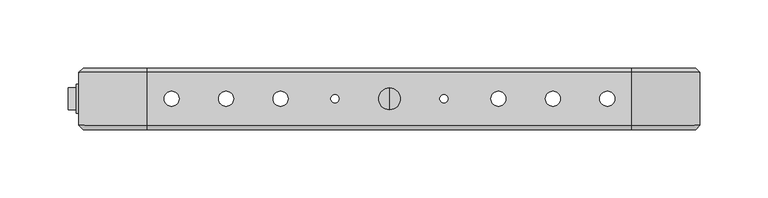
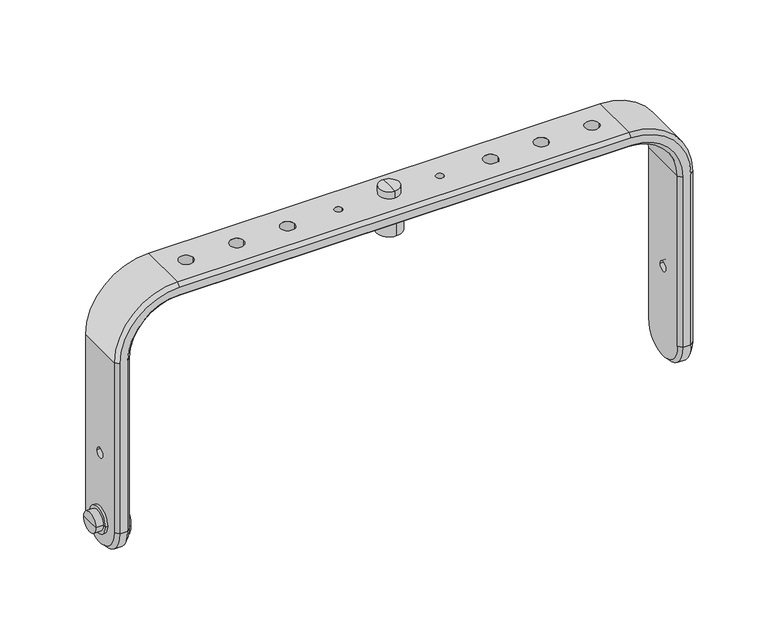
"""IFC4 building model written with IfcOpenShell, lengths in millimetres: proxy geometry, ePS8-WM280-HBRK425-WHM : ePS8-WM280-HBRK425-WHM."""

from ifc_helpers import new_model, si_unit, point, frame, origin, place, context, project, spatial, polyline, circle_curve, ellipse_curve, trimmed, source, transform, mapped, element, save
from ifc_brep_helpers import plane_surface, cylinder_surface, revolved_surface, advanced_brep


def generic_models_8d1e662f(model_context):
    return source(origin(), model_context, "Body", "AdvancedBrep", [
        advanced_brep(
        [(-216.0, -260.557585, -192.0012591), (-216.0, -297.442415, -192.0012591), (-216.0, -283.0553577, -192.0012591), (-216.0, -274.9446423, -192.0012591), (-213.0, -263.557585, -192.0012591), (-213.0, -294.442415, -192.0012591), (-213.0, -274.9446423, -192.0012591), (-213.0, -283.0553577, -192.0012591), (-212.0, -274.9446423, -192.0012591), (-212.0, -283.0553577, -192.0012591), (-212.0, -279.0, -192.0012591), (-236.0, -270.9249697, -192.0012591), (-236.0, -287.0750303, -192.0012591), (-236.0, -279.0, -192.0012591), (-230.0, -270.9249697, -192.0012591), (-230.0, -287.0750303, -192.0012591), (-230.0, -268.444078, -192.0012591), (-230.0, -289.555922, -192.0012591), (-228.0, -268.444078, -192.0012591), (-228.0, -289.555922, -192.0012591), (-228.0, -274.9446423, -192.0012591), (-228.0, -283.0553577, -192.0012591)],
        [
            (0, 1, circle_curve(frame((-216.0, -279.0, -192.0012591), z_axis=(-1.0, 0.0, 0.0), x_axis=(0.0, -1.0, 0.0)), 18.442415)),
            (1, 2),
            (2, 3, circle_curve(frame((-216.0, -279.0, -192.0012591), z_axis=(1.0, 0.0, 0.0), x_axis=(0.0, -1.0, 0.0)), 4.0553577)),
            (3, 0),
            (1, 0, circle_curve(frame((-216.0, -279.0, -192.0012591), z_axis=(-1.0, 0.0, 0.0), x_axis=(0.0, -1.0, 0.0)), 18.442415)),
            (3, 2, circle_curve(frame((-216.0, -279.0, -192.0012591), z_axis=(1.0, 0.0, 0.0), x_axis=(0.0, -1.0, 0.0)), 4.0553577)),
            (4, 5, circle_curve(frame((-213.0, -279.0, -192.0012591), z_axis=(-1.0, 0.0, 0.0), x_axis=(0.0, -1.0, 0.0)), 15.442415)),
            (5, 1, circle_curve(frame((-216.0, -294.442415, -192.0012591), z_axis=(0.0, 0.0, -1.0), x_axis=(1.0, 0.0, 0.0)), 3.0)),
            (0, 4, circle_curve(frame((-216.0, -263.557585, -192.0012591), z_axis=(0.0, 0.0, -1.0), x_axis=(1.0, 0.0, 0.0)), 3.0)),
            (5, 4, circle_curve(frame((-213.0, -279.0, -192.0012591), z_axis=(-1.0, 0.0, 0.0), x_axis=(0.0, -1.0, 0.0)), 15.442415)),
            (6, 7, circle_curve(frame((-213.0, -279.0, -192.0012591), z_axis=(-1.0, 0.0, 0.0), x_axis=(0.0, -1.0, 0.0)), 4.0553577)),
            (7, 5),
            (4, 6),
            (7, 6, circle_curve(frame((-213.0, -279.0, -192.0012591), z_axis=(-1.0, 0.0, 0.0), x_axis=(0.0, -1.0, 0.0)), 4.0553577)),
            (8, 9, circle_curve(frame((-212.0, -279.0, -192.0012591), z_axis=(-1.0, 0.0, 0.0), x_axis=(0.0, -1.0, 0.0)), 4.0553577)),
            (9, 7),
            (6, 8),
            (9, 8, circle_curve(frame((-212.0, -279.0, -192.0012591), z_axis=(-1.0, 0.0, 0.0), x_axis=(0.0, -1.0, 0.0)), 4.0553577)),
            (10, 9),
            (8, 10),
            (11, 12, circle_curve(frame((-236.0, -279.0, -192.0012591), z_axis=(-1.0, 0.0, 0.0), x_axis=(0.0, -1.0, 0.0)), 8.0750303)),
            (12, 13),
            (13, 11),
            (12, 11, circle_curve(frame((-236.0, -279.0, -192.0012591), z_axis=(-1.0, 0.0, 0.0), x_axis=(0.0, -1.0, 0.0)), 8.0750303)),
            (14, 15, circle_curve(frame((-230.0, -279.0, -192.0012591), z_axis=(-1.0, 0.0, 0.0), x_axis=(0.0, -1.0, 0.0)), 8.0750303)),
            (15, 12),
            (11, 14),
            (15, 14, circle_curve(frame((-230.0, -279.0, -192.0012591), z_axis=(-1.0, 0.0, 0.0), x_axis=(0.0, -1.0, 0.0)), 8.0750303)),
            (16, 17, circle_curve(frame((-230.0, -279.0, -192.0012591), z_axis=(-1.0, 0.0, 0.0), x_axis=(0.0, -1.0, 0.0)), 10.555922)),
            (17, 15),
            (14, 16),
            (17, 16, circle_curve(frame((-230.0, -279.0, -192.0012591), z_axis=(-1.0, 0.0, 0.0), x_axis=(0.0, -1.0, 0.0)), 10.555922)),
            (18, 19, circle_curve(frame((-228.0, -279.0, -192.0012591), z_axis=(-1.0, 0.0, 0.0), x_axis=(0.0, -1.0, 0.0)), 10.555922)),
            (19, 17),
            (16, 18),
            (19, 18, circle_curve(frame((-228.0, -279.0, -192.0012591), z_axis=(-1.0, 0.0, 0.0), x_axis=(0.0, -1.0, 0.0)), 10.555922)),
            (20, 21, circle_curve(frame((-228.0, -279.0, -192.0012591), z_axis=(-1.0, 0.0, 0.0), x_axis=(0.0, -1.0, 0.0)), 4.0553577)),
            (21, 19),
            (18, 20),
            (21, 20, circle_curve(frame((-228.0, -279.0, -192.0012591), z_axis=(-1.0, 0.0, 0.0), x_axis=(0.0, -1.0, 0.0)), 4.0553577)),
            (2, 21),
            (20, 3),
        ],
        [
            plane_surface(frame((-216.0, -279.0, -192.0012591), z_axis=(-1.0, 0.0, 0.0), x_axis=(0.0, -1.0, 0.0))),
            revolved_surface(trimmed(ellipse_curve(frame((-216.0, -294.442415, -192.0012591), z_axis=(0.0, 0.0, 1.0), x_axis=(1.0, 0.0, 0.0)), 3.0, 3.0), [point((-216.0, -297.442415, -192.0012591))], [point((-213.0, -294.442415, -192.0012591))], True, "CARTESIAN"), (-203.2578639, -279.0, -192.0012591), (1.0, 0.0, 0.0)),
            plane_surface(frame((-213.0, -279.0, -192.0012591), z_axis=(1.0, 0.0, 0.0), x_axis=(0.0, -1.0, 0.0))),
            cylinder_surface(frame((-203.2578639, -279.0, -192.0012591), z_axis=(1.0, 0.0, 0.0), x_axis=(0.0, -1.0, 0.0)), 4.0553577),
            plane_surface(frame((-212.0, -279.0, -192.0012591), z_axis=(1.0, 0.0, 0.0), x_axis=(0.0, -1.0, 0.0))),
            plane_surface(frame((-236.0, -279.0, -192.0012591), z_axis=(-1.0, 0.0, 0.0), x_axis=(0.0, -1.0, 0.0))),
            cylinder_surface(frame((-203.2578639, -279.0, -192.0012591), z_axis=(1.0, 0.0, 0.0), x_axis=(0.0, -1.0, 0.0)), 8.0750303),
            plane_surface(frame((-230.0, -279.0, -192.0012591), z_axis=(-1.0, 0.0, 0.0), x_axis=(0.0, -1.0, 0.0))),
            cylinder_surface(frame((-203.2578639, -279.0, -192.0012591), z_axis=(1.0, 0.0, 0.0), x_axis=(0.0, -1.0, 0.0)), 10.555922),
            plane_surface(frame((-228.0, -279.0, -192.0012591), z_axis=(1.0, 0.0, 0.0), x_axis=(0.0, -1.0, 0.0))),
        ],
        [
            (0, [[1, 2, 3, 4]]),
            (0, [[5, -4, 6, -2]]),
            (1, [[7, 8, -1, 9]]),
            (1, [[10, -9, -5, -8]]),
            (2, [[11, 12, -7, 13]]),
            (2, [[14, -13, -10, -12]]),
            (3, [[15, 16, -11, 17]]),
            (3, [[18, -17, -14, -16]]),
            (4, [[19, -15, 20]]),
            (4, [[-20, -18, -19]]),
            (5, [[21, 22, 23]]),
            (5, [[24, -23, -22]]),
            (6, [[25, 26, -21, 27]]),
            (6, [[28, -27, -24, -26]]),
            (7, [[29, 30, -25, 31]]),
            (7, [[32, -31, -28, -30]]),
            (8, [[33, 34, -29, 35]]),
            (8, [[36, -35, -32, -34]]),
            (9, [[37, 38, -33, 39]]),
            (9, [[40, -39, -36, -38]]),
            (3, [[-3, 41, -37, 42]]),
            (3, [[-6, -42, -40, -41]]),
        ],
    ),
        advanced_brep(
        [(228.0, -259.4281655, -192.0012591), (228.0, -259.4281655, -50.0), (228.0, -298.5718345, -50.0), (228.0, -298.5718345, -192.0012591), (228.0, -275.0, -137.0012591), (228.0, -283.0, -137.0012591), (225.0, -301.5718345, -50.0), (225.0, -301.5718345, -192.0012591), (178.0, -301.5718345, -3.0), (-178.0, -301.5718345, -3.0), (-225.0, -301.5718345, -50.0), (-225.0, -301.5718345, -192.0012591), (-219.0, -301.5718345, -192.0012591), (-219.0, -301.5718345, -50.0), (-178.0, -301.5718345, -9.0), (178.0, -301.5718345, -9.0), (219.0, -301.5718345, -50.0), (219.0, -301.5718345, -192.0012591), (216.0, -298.5718345, -50.0), (216.0, -298.5718345, -192.0012591), (216.0, -259.4281655, -50.0), (216.0, -259.4281655, -192.0012591), (216.0, -283.0, -137.0012591), (216.0, -275.0, -137.0012591), (178.0, -259.4281655, 0.0), (178.0, -298.5718345, 0.0), (178.0, -298.5718345, -12.0), (178.0, -259.4281655, -12.0), (-178.0, -259.4281655, 0.0), (-178.0, -298.5718345, 0.0), (5.5, -279.0, 0.0), (-5.5, -279.0, 0.0), (-154.5, -279.0, 0.0), (-165.5, -279.0, 0.0), (-37.0, -279.0, 0.0), (-43.0, -279.0, 0.0), (-114.5, -279.0, 0.0), (-125.5, -279.0, 0.0), (-74.5, -279.0, 0.0), (-85.5, -279.0, 0.0), (154.5, -279.0, 0.0), (165.5, -279.0, 0.0), (37.0, -279.0, 0.0), (43.0, -279.0, 0.0), (114.5, -279.0, 0.0), (125.5, -279.0, 0.0), (74.5, -279.0, 0.0), (85.5, -279.0, 0.0), (-178.0, -298.5718345, -12.0), (-178.0, -259.4281655, -12.0), (-5.5, -279.0, -12.0), (5.5, -279.0, -12.0), (-165.5, -279.0, -12.0), (-154.5, -279.0, -12.0), (-43.0, -279.0, -12.0), (-37.0, -279.0, -12.0), (-125.5, -279.0, -12.0), (-114.5, -279.0, -12.0), (-85.5, -279.0, -12.0), (-74.5, -279.0, -12.0), (165.5, -279.0, -12.0), (154.5, -279.0, -12.0), (43.0, -279.0, -12.0), (37.0, -279.0, -12.0), (125.5, -279.0, -12.0), (114.5, -279.0, -12.0), (85.5, -279.0, -12.0), (74.5, -279.0, -12.0), (-228.0, -259.4281655, -50.0), (-228.0, -298.5718345, -50.0), (-216.0, -298.5718345, -50.0), (-216.0, -259.4281655, -50.0), (-228.0, -259.4281655, -192.0012591), (-228.0, -298.5718345, -192.0012591), (-228.0, -283.0, -137.0012591), (-228.0, -275.0, -137.0012591), (-216.0, -298.5718345, -192.0012591), (-216.0, -259.4281655, -192.0012591), (-216.0, -275.0, -137.0012591), (-216.0, -283.0, -137.0012591), (219.0, -256.4281655, -50.0), (219.0, -256.4281655, -192.0012591), (178.0, -256.4281655, -9.0), (-178.0, -256.4281655, -9.0), (-219.0, -256.4281655, -50.0), (-219.0, -256.4281655, -192.0012591), (-225.0, -256.4281655, -192.0012591), (-225.0, -256.4281655, -50.0), (-178.0, -256.4281655, -3.0), (178.0, -256.4281655, -3.0), (225.0, -256.4281655, -50.0), (225.0, -256.4281655, -192.0012591)],
        [
            (0, 1),
            (1, 2),
            (2, 3),
            (3, 0, circle_curve(frame((228.0, -279.0, -192.0012591), z_axis=(1.0, 0.0, 0.0), x_axis=(0.0, -1.0, 0.0)), 19.5718345)),
            (4, 5, circle_curve(frame((228.0, -279.0, -137.0012591), z_axis=(-1.0, 0.0, 0.0), x_axis=(0.0, 1.0, 0.0)), 4.0)),
            (5, 4, circle_curve(frame((228.0, -279.0, -137.0012591), z_axis=(-1.0, 0.0, 0.0), x_axis=(0.0, 1.0, 0.0)), 4.0)),
            (2, 6),
            (6, 7),
            (7, 3),
            (6, 8, circle_curve(frame((178.0, -301.5718345, -50.0), z_axis=(0.0, -1.0, 0.0), x_axis=(1.0, 0.0, 0.0)), 47.0)),
            (8, 9),
            (9, 10, circle_curve(frame((-178.0, -301.5718345, -50.0), z_axis=(0.0, -1.0, 0.0), x_axis=(0.0, 0.0, 1.0)), 47.0)),
            (10, 11),
            (11, 12),
            (12, 13),
            (13, 14, circle_curve(frame((-178.0, -301.5718345, -50.0), z_axis=(0.0, 1.0, 0.0), x_axis=(0.0, 0.0, 1.0)), 41.0)),
            (14, 15),
            (15, 16, circle_curve(frame((178.0, -301.5718345, -50.0), z_axis=(0.0, 1.0, 0.0), x_axis=(1.0, 0.0, 0.0)), 41.0)),
            (16, 17),
            (17, 7),
            (16, 18),
            (18, 19),
            (19, 17),
            (18, 20),
            (20, 21),
            (21, 19, circle_curve(frame((216.0, -279.0, -192.0012591), z_axis=(-1.0, 0.0, 0.0), x_axis=(0.0, -1.0, 0.0)), 19.5718345)),
            (22, 23, circle_curve(frame((216.0, -279.0, -137.0012591), z_axis=(1.0, 0.0, 0.0), x_axis=(0.0, 1.0, 0.0)), 4.0)),
            (23, 22, circle_curve(frame((216.0, -279.0, -137.0012591), z_axis=(1.0, 0.0, 0.0), x_axis=(0.0, 1.0, 0.0)), 4.0)),
            (1, 24, circle_curve(frame((178.0, -259.4281655, -50.0), z_axis=(0.0, -1.0, 0.0), x_axis=(1.0, 0.0, 0.0)), 50.0)),
            (24, 25),
            (25, 2, circle_curve(frame((178.0, -298.5718345, -50.0), z_axis=(0.0, 1.0, 0.0), x_axis=(1.0, 0.0, 0.0)), 50.0)),
            (25, 8),
            (15, 26),
            (26, 18, circle_curve(frame((178.0, -298.5718345, -50.0), z_axis=(0.0, 1.0, 0.0), x_axis=(1.0, 0.0, 0.0)), 38.0)),
            (26, 27),
            (27, 20, circle_curve(frame((178.0, -259.4281655, -50.0), z_axis=(0.0, 1.0, 0.0), x_axis=(1.0, 0.0, 0.0)), 38.0)),
            (24, 28),
            (28, 29),
            (29, 25),
            (30, 31, circle_curve(frame((0.0, -279.0, 0.0), z_axis=(0.0, 0.0, -1.0), x_axis=(1.0, 0.0, 0.0)), 5.5)),
            (31, 30, circle_curve(frame((0.0, -279.0, 0.0), z_axis=(0.0, 0.0, -1.0), x_axis=(1.0, 0.0, 0.0)), 5.5)),
            (32, 33, circle_curve(frame((-160.0, -279.0, 0.0), z_axis=(0.0, 0.0, -1.0), x_axis=(1.0, 0.0, 0.0)), 5.5)),
            (33, 32, circle_curve(frame((-160.0, -279.0, 0.0), z_axis=(0.0, 0.0, -1.0), x_axis=(1.0, 0.0, 0.0)), 5.5)),
            (34, 35, circle_curve(frame((-40.0, -279.0, 0.0), z_axis=(0.0, 0.0, -1.0), x_axis=(1.0, 0.0, 0.0)), 3.0)),
            (35, 34, circle_curve(frame((-40.0, -279.0, 0.0), z_axis=(0.0, 0.0, -1.0), x_axis=(1.0, 0.0, 0.0)), 3.0)),
            (36, 37, circle_curve(frame((-120.0, -279.0, 0.0), z_axis=(0.0, 0.0, -1.0), x_axis=(1.0, 0.0, 0.0)), 5.5)),
            (37, 36, circle_curve(frame((-120.0, -279.0, 0.0), z_axis=(0.0, 0.0, -1.0), x_axis=(1.0, 0.0, 0.0)), 5.5)),
            (38, 39, circle_curve(frame((-80.0, -279.0, 0.0), z_axis=(0.0, 0.0, -1.0), x_axis=(1.0, 0.0, 0.0)), 5.5)),
            (39, 38, circle_curve(frame((-80.0, -279.0, 0.0), z_axis=(0.0, 0.0, -1.0), x_axis=(1.0, 0.0, 0.0)), 5.5)),
            (40, 41, circle_curve(frame((160.0, -279.0, 0.0), z_axis=(0.0, 0.0, -1.0), x_axis=(-1.0, 0.0, 0.0)), 5.5)),
            (41, 40, circle_curve(frame((160.0, -279.0, 0.0), z_axis=(0.0, 0.0, -1.0), x_axis=(-1.0, 0.0, 0.0)), 5.5)),
            (42, 43, circle_curve(frame((40.0, -279.0, 0.0), z_axis=(0.0, 0.0, -1.0), x_axis=(-1.0, 0.0, 0.0)), 3.0)),
            (43, 42, circle_curve(frame((40.0, -279.0, 0.0), z_axis=(0.0, 0.0, -1.0), x_axis=(-1.0, 0.0, 0.0)), 3.0)),
            (44, 45, circle_curve(frame((120.0, -279.0, 0.0), z_axis=(0.0, 0.0, -1.0), x_axis=(-1.0, 0.0, 0.0)), 5.5)),
            (45, 44, circle_curve(frame((120.0, -279.0, 0.0), z_axis=(0.0, 0.0, -1.0), x_axis=(-1.0, 0.0, 0.0)), 5.5)),
            (46, 47, circle_curve(frame((80.0, -279.0, 0.0), z_axis=(0.0, 0.0, -1.0), x_axis=(-1.0, 0.0, 0.0)), 5.5)),
            (47, 46, circle_curve(frame((80.0, -279.0, 0.0), z_axis=(0.0, 0.0, -1.0), x_axis=(-1.0, 0.0, 0.0)), 5.5)),
            (29, 9),
            (14, 48),
            (48, 26),
            (48, 49),
            (49, 27),
            (50, 51, circle_curve(frame((0.0, -279.0, -12.0), z_axis=(0.0, 0.0, 1.0), x_axis=(1.0, 0.0, 0.0)), 5.5)),
            (51, 50, circle_curve(frame((0.0, -279.0, -12.0), z_axis=(0.0, 0.0, 1.0), x_axis=(1.0, 0.0, 0.0)), 5.5)),
            (52, 53, circle_curve(frame((-160.0, -279.0, -12.0), z_axis=(0.0, 0.0, 1.0), x_axis=(1.0, 0.0, 0.0)), 5.5)),
            (53, 52, circle_curve(frame((-160.0, -279.0, -12.0), z_axis=(0.0, 0.0, 1.0), x_axis=(1.0, 0.0, 0.0)), 5.5)),
            (54, 55, circle_curve(frame((-40.0, -279.0, -12.0), z_axis=(0.0, 0.0, 1.0), x_axis=(1.0, 0.0, 0.0)), 3.0)),
            (55, 54, circle_curve(frame((-40.0, -279.0, -12.0), z_axis=(0.0, 0.0, 1.0), x_axis=(1.0, 0.0, 0.0)), 3.0)),
            (56, 57, circle_curve(frame((-120.0, -279.0, -12.0), z_axis=(0.0, 0.0, 1.0), x_axis=(1.0, 0.0, 0.0)), 5.5)),
            (57, 56, circle_curve(frame((-120.0, -279.0, -12.0), z_axis=(0.0, 0.0, 1.0), x_axis=(1.0, 0.0, 0.0)), 5.5)),
            (58, 59, circle_curve(frame((-80.0, -279.0, -12.0), z_axis=(0.0, 0.0, 1.0), x_axis=(1.0, 0.0, 0.0)), 5.5)),
            (59, 58, circle_curve(frame((-80.0, -279.0, -12.0), z_axis=(0.0, 0.0, 1.0), x_axis=(1.0, 0.0, 0.0)), 5.5)),
            (60, 61, circle_curve(frame((160.0, -279.0, -12.0), z_axis=(0.0, 0.0, 1.0), x_axis=(-1.0, 0.0, 0.0)), 5.5)),
            (61, 60, circle_curve(frame((160.0, -279.0, -12.0), z_axis=(0.0, 0.0, 1.0), x_axis=(-1.0, 0.0, 0.0)), 5.5)),
            (62, 63, circle_curve(frame((40.0, -279.0, -12.0), z_axis=(0.0, 0.0, 1.0), x_axis=(-1.0, 0.0, 0.0)), 3.0)),
            (63, 62, circle_curve(frame((40.0, -279.0, -12.0), z_axis=(0.0, 0.0, 1.0), x_axis=(-1.0, 0.0, 0.0)), 3.0)),
            (64, 65, circle_curve(frame((120.0, -279.0, -12.0), z_axis=(0.0, 0.0, 1.0), x_axis=(-1.0, 0.0, 0.0)), 5.5)),
            (65, 64, circle_curve(frame((120.0, -279.0, -12.0), z_axis=(0.0, 0.0, 1.0), x_axis=(-1.0, 0.0, 0.0)), 5.5)),
            (66, 67, circle_curve(frame((80.0, -279.0, -12.0), z_axis=(0.0, 0.0, 1.0), x_axis=(-1.0, 0.0, 0.0)), 5.5)),
            (67, 66, circle_curve(frame((80.0, -279.0, -12.0), z_axis=(0.0, 0.0, 1.0), x_axis=(-1.0, 0.0, 0.0)), 5.5)),
            (28, 68, circle_curve(frame((-178.0, -259.4281655, -50.0), z_axis=(0.0, -1.0, 0.0), x_axis=(0.0, 0.0, 1.0)), 50.0)),
            (68, 69),
            (69, 29, circle_curve(frame((-178.0, -298.5718345, -50.0), z_axis=(0.0, 1.0, 0.0), x_axis=(0.0, 0.0, 1.0)), 50.0)),
            (69, 10),
            (13, 70),
            (70, 48, circle_curve(frame((-178.0, -298.5718345, -50.0), z_axis=(0.0, 1.0, 0.0), x_axis=(0.0, 0.0, 1.0)), 38.0)),
            (70, 71),
            (71, 49, circle_curve(frame((-178.0, -259.4281655, -50.0), z_axis=(0.0, 1.0, 0.0), x_axis=(0.0, 0.0, 1.0)), 38.0)),
            (68, 72),
            (72, 73, circle_curve(frame((-228.0, -279.0, -192.0012591), z_axis=(-1.0, 0.0, 0.0), x_axis=(0.0, -1.0, 0.0)), 19.5718345)),
            (73, 69),
            (74, 75, circle_curve(frame((-228.0, -279.0, -137.0012591), z_axis=(1.0, 0.0, 0.0), x_axis=(0.0, 1.0, 0.0)), 4.0)),
            (75, 74, circle_curve(frame((-228.0, -279.0, -137.0012591), z_axis=(1.0, 0.0, 0.0), x_axis=(0.0, 1.0, 0.0)), 4.0)),
            (73, 11),
            (12, 76),
            (76, 70),
            (76, 77, circle_curve(frame((-216.0, -279.0, -192.0012591), z_axis=(1.0, 0.0, 0.0), x_axis=(0.0, -1.0, 0.0)), 19.5718345)),
            (77, 71),
            (78, 79, circle_curve(frame((-216.0, -279.0, -137.0012591), z_axis=(-1.0, 0.0, 0.0), x_axis=(0.0, 1.0, 0.0)), 4.0)),
            (79, 78, circle_curve(frame((-216.0, -279.0, -137.0012591), z_axis=(-1.0, 0.0, 0.0), x_axis=(0.0, 1.0, 0.0)), 4.0)),
            (20, 80),
            (80, 81),
            (81, 21),
            (80, 82, circle_curve(frame((178.0, -256.4281655, -50.0), z_axis=(0.0, -1.0, 0.0), x_axis=(1.0, 0.0, 0.0)), 41.0)),
            (82, 83),
            (83, 84, circle_curve(frame((-178.0, -256.4281655, -50.0), z_axis=(0.0, -1.0, 0.0), x_axis=(0.0, 0.0, 1.0)), 41.0)),
            (84, 85),
            (85, 86),
            (86, 87),
            (87, 88, circle_curve(frame((-178.0, -256.4281655, -50.0), z_axis=(0.0, 1.0, 0.0), x_axis=(0.0, 0.0, 1.0)), 47.0)),
            (88, 89),
            (89, 90, circle_curve(frame((178.0, -256.4281655, -50.0), z_axis=(0.0, 1.0, 0.0), x_axis=(1.0, 0.0, 0.0)), 47.0)),
            (90, 91),
            (91, 81),
            (0, 91),
            (90, 1),
            (27, 82),
            (89, 24),
            (49, 83),
            (88, 28),
            (71, 84),
            (87, 68),
            (77, 85),
            (86, 72),
            (85, 12, circle_curve(frame((-219.0, -279.0, -192.0012591), z_axis=(-1.0, 0.0, 0.0), x_axis=(0.0, -1.0, 0.0)), 22.5718345)),
            (11, 86, circle_curve(frame((-225.0, -279.0, -192.0012591), z_axis=(1.0, 0.0, 0.0), x_axis=(0.0, -1.0, 0.0)), 22.5718345)),
            (91, 7, circle_curve(frame((225.0, -279.0, -192.0012591), z_axis=(-1.0, 0.0, 0.0), x_axis=(0.0, -1.0, 0.0)), 22.5718345)),
            (17, 81, circle_curve(frame((219.0, -279.0, -192.0012591), z_axis=(1.0, 0.0, 0.0), x_axis=(0.0, -1.0, 0.0)), 22.5718345)),
            (50, 31),
            (30, 51),
            (52, 33),
            (32, 53),
            (54, 35),
            (34, 55),
            (56, 37),
            (36, 57),
            (58, 39),
            (38, 59),
            (60, 41),
            (40, 61),
            (62, 43),
            (42, 63),
            (64, 45),
            (44, 65),
            (66, 47),
            (46, 67),
            (22, 5),
            (4, 23),
            (74, 79),
            (78, 75),
        ],
        [
            plane_surface(frame((228.0, -259.4281655, -192.0012591), z_axis=(1.0, 0.0, 0.0), x_axis=(0.0, 0.0, 1.0))),
            plane_surface(frame((228.0, -298.5718345, -192.0012591), z_axis=(0.7071067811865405, -0.7071067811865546, 0.0), x_axis=(0.0, 0.0, 1.0))),
            plane_surface(frame((225.0, -301.5718345, -192.0012591), z_axis=(0.0, -1.0, 0.0), x_axis=(0.0, 0.0, 1.0))),
            plane_surface(frame((219.0, -301.5718345, -192.0012591), z_axis=(-0.7071067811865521, -0.7071067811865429, 0.0), x_axis=(0.0, 0.0, 1.0))),
            plane_surface(frame((216.0, -298.5718345, -192.0012591), z_axis=(-1.0, 0.0, 0.0), x_axis=(0.0, 0.0, 1.0))),
            cylinder_surface(frame((178.0, -279.0, -50.0), z_axis=(0.0, -1.0, 0.0), x_axis=(1.0, 0.0, 0.0)), 50.0),
            revolved_surface(polyline([(228.0, -298.5718345, -50.0), (225.0, -301.5718345, -50.0)]), (178.0, -279.0, -50.0), (0.0, -1.0, 0.0)),
            revolved_surface(polyline([(219.0, -301.5718345, -50.0), (216.0, -298.5718345, -50.0)]), (178.0, -279.0, -50.0), (0.0, -1.0, 0.0)),
            revolved_surface(polyline([(216.0, -298.5718345, -50.0), (216.0, -259.4281655, -50.0)]), (178.0, -279.0, -50.0), (0.0, -1.0, 0.0)),
            plane_surface(frame((178.0, -259.4281655, 0.0), z_axis=(0.0, 0.0, 1.0), x_axis=(-1.0, 0.0, 0.0))),
            plane_surface(frame((178.0, -298.5718345, 0.0), z_axis=(0.0, -0.7071067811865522, 0.7071067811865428), x_axis=(-1.0, 0.0, 0.0))),
            plane_surface(frame((178.0, -301.5718345, -9.0), z_axis=(0.0, -0.7071067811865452, -0.7071067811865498), x_axis=(-1.0, 0.0, 0.0))),
            plane_surface(frame((178.0, -298.5718345, -12.0), z_axis=(0.0, 0.0, -1.0), x_axis=(-1.0, 0.0, 0.0))),
            cylinder_surface(frame((-178.0, -279.0, -50.0), z_axis=(0.0, -1.0, 0.0), x_axis=(0.0, 0.0, 1.0)), 50.0),
            revolved_surface(polyline([(-178.0, -298.5718345, 0.0), (-178.0, -301.5718345, -3.0)]), (-178.0, -279.0, -50.0), (0.0, -1.0, 0.0)),
            revolved_surface(polyline([(-178.0, -301.5718345, -9.0), (-178.0, -298.5718345, -12.0)]), (-178.0, -279.0, -50.0), (0.0, -1.0, 0.0)),
            revolved_surface(polyline([(-178.0, -298.5718345, -12.0), (-178.0, -259.4281655, -12.0)]), (-178.0, -279.0, -50.0), (0.0, -1.0, 0.0)),
            plane_surface(frame((-228.0, -259.4281655, -50.0), z_axis=(-1.0, 0.0, 0.0), x_axis=(0.0, 0.0, -1.0))),
            plane_surface(frame((-228.0, -298.5718345, -50.0), z_axis=(-0.7071067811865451, -0.7071067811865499, 0.0), x_axis=(0.0, 0.0, -1.0))),
            plane_surface(frame((-219.0, -301.5718345, -50.0), z_axis=(0.7071067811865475, -0.7071067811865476, 0.0), x_axis=(0.0, 0.0, -1.0))),
            plane_surface(frame((-216.0, -298.5718345, -50.0), z_axis=(1.0, 0.0, 0.0), x_axis=(0.0, 0.0, -1.0))),
            plane_surface(frame((216.0, -259.4281655, -192.0012591), z_axis=(-0.7071067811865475, 0.7071067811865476, 0.0), x_axis=(0.0, 0.0, 1.0))),
            plane_surface(frame((219.0, -256.4281655, -192.0012591), z_axis=(0.0, 1.0, 0.0), x_axis=(0.0, 0.0, 1.0))),
            plane_surface(frame((225.0, -256.4281655, -192.0012591), z_axis=(0.7071067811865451, 0.7071067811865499, 0.0), x_axis=(0.0, 0.0, 1.0))),
            revolved_surface(polyline([(216.0, -259.4281655, -50.0), (219.0, -256.4281655, -50.0)]), (178.0, -279.0, -50.0), (0.0, -1.0, 0.0)),
            revolved_surface(polyline([(225.0, -256.4281655, -50.0), (228.0, -259.4281655, -50.0)]), (178.0, -279.0, -50.0), (0.0, -1.0, 0.0)),
            plane_surface(frame((178.0, -259.4281655, -12.0), z_axis=(0.0, 0.7071067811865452, -0.7071067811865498), x_axis=(-1.0, 0.0, 0.0))),
            plane_surface(frame((178.0, -256.4281655, -3.0), z_axis=(0.0, 0.7071067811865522, 0.7071067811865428), x_axis=(-1.0, 0.0, 0.0))),
            revolved_surface(polyline([(-178.0, -259.4281655, -12.0), (-178.0, -256.4281655, -9.0)]), (-178.0, -279.0, -50.0), (0.0, -1.0, 0.0)),
            revolved_surface(polyline([(-178.0, -256.4281655, -3.0), (-178.0, -259.4281655, 0.0)]), (-178.0, -279.0, -50.0), (0.0, -1.0, 0.0)),
            plane_surface(frame((-216.0, -259.4281655, -50.0), z_axis=(0.7071067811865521, 0.7071067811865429, 0.0), x_axis=(0.0, 0.0, -1.0))),
            plane_surface(frame((-225.0, -256.4281655, -50.0), z_axis=(-0.7071067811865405, 0.7071067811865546, 0.0), x_axis=(0.0, 0.0, -1.0))),
            cylinder_surface(frame((1971.5, -279.0, -192.0012591), z_axis=(1.0, 0.0, 0.0), x_axis=(0.0, -1.0, 0.0)), 22.5718345),
            revolved_surface(polyline([(-219.0, -301.5718345, -192.0012591), (-216.0, -298.5718345, -192.0012591)]), (1971.5, -279.0, -192.0012591), (1.0, 0.0, 0.0)),
            revolved_surface(polyline([(-228.0, -298.5718345, -192.0012591), (-225.0, -301.5718345, -192.0012591)]), (1971.5, -279.0, -192.0012591), (1.0, 0.0, 0.0)),
            cylinder_surface(frame((-1971.5, -279.0, -192.0012591), z_axis=(1.0, 0.0, 0.0), x_axis=(0.0, -1.0, 0.0)), 22.5718345),
            revolved_surface(polyline([(216.0, -298.5718345, -192.0012591), (219.0, -301.5718345, -192.0012591)]), (-1971.5, -279.0, -192.0012591), (1.0, 0.0, 0.0)),
            revolved_surface(polyline([(225.0, -301.5718345, -192.0012591), (228.0, -298.5718345, -192.0012591)]), (-1971.5, -279.0, -192.0012591), (1.0, 0.0, 0.0)),
            revolved_surface(polyline([(5.5, -279.0, 0.0), (5.5, -279.0, -12.0)]), (0.0, -279.0, -20.0), (0.0, 0.0, 1.0)),
            revolved_surface(polyline([(-154.5, -279.0, 0.0), (-154.5, -279.0, -12.0)]), (-160.0, -279.0, 0.0), (0.0, 0.0, 1.0)),
            revolved_surface(polyline([(-37.0, -279.0, 0.0), (-37.0, -279.0, -12.0)]), (-40.0, -279.0, 0.0), (0.0, 0.0, 1.0)),
            revolved_surface(polyline([(-114.5, -279.0, 0.0), (-114.5, -279.0, -12.0)]), (-120.0, -279.0, 0.0), (0.0, 0.0, 1.0)),
            revolved_surface(polyline([(-74.5, -279.0, 0.0), (-74.5, -279.0, -12.0)]), (-80.0, -279.0, 0.0), (0.0, 0.0, 1.0)),
            revolved_surface(polyline([(154.5, -279.0, 0.0), (154.5, -279.0, -12.0)]), (160.0, -279.0, 0.0), (0.0, 0.0, 1.0)),
            revolved_surface(polyline([(37.0, -279.0, 0.0), (37.0, -279.0, -12.0)]), (40.0, -279.0, 0.0), (0.0, 0.0, 1.0)),
            revolved_surface(polyline([(114.5, -279.0, 0.0), (114.5, -279.0, -12.0)]), (120.0, -279.0, 0.0), (0.0, 0.0, 1.0)),
            revolved_surface(polyline([(74.5, -279.0, 0.0), (74.5, -279.0, -12.0)]), (80.0, -279.0, 0.0), (0.0, 0.0, 1.0)),
            revolved_surface(polyline([(228.0, -275.0, -137.0012591), (216.0, -275.0, -137.0012591)]), (-235.0, -279.0, -137.0012591), (1.0, 0.0, 0.0)),
            revolved_surface(polyline([(-216.0, -275.0, -137.0012591), (-228.0, -275.0, -137.0012591)]), (-235.0, -279.0, -137.0012591), (1.0, 0.0, 0.0)),
        ],
        [
            (0, [[1, 2, 3, 4], [5, 6]]),
            (1, [[-3, 7, 8, 9]]),
            (2, [[-8, 10, 11, 12, 13, 14, 15, 16, 17, 18, 19, 20]]),
            (3, [[-19, 21, 22, 23]]),
            (4, [[-22, 24, 25, 26], [27, 28]]),
            (5, [[-2, 29, 30, 31]]),
            (6, [[-7, -31, 32, -10]]),
            (7, [[-18, 33, 34, -21]]),
            (8, [[-24, -34, 35, 36]]),
            (9, [[-30, 37, 38, 39], [40, 41], [42, 43], [44, 45], [46, 47], [48, 49], [50, 51], [52, 53], [54, 55], [56, 57]]),
            (10, [[-11, -32, -39, 58]]),
            (11, [[-17, 59, 60, -33]]),
            (12, [[-35, -60, 61, 62], [63, 64], [65, 66], [67, 68], [69, 70], [71, 72], [73, 74], [75, 76], [77, 78], [79, 80]]),
            (13, [[-38, 81, 82, 83]]),
            (14, [[-12, -58, -83, 84]]),
            (15, [[-16, 85, 86, -59]]),
            (16, [[-61, -86, 87, 88]]),
            (17, [[-82, 89, 90, 91], [92, 93]]),
            (18, [[-13, -84, -91, 94]]),
            (19, [[-15, 95, 96, -85]]),
            (20, [[-87, -96, 97, 98], [99, 100]]),
            (21, [[-25, 101, 102, 103]]),
            (22, [[-102, 104, 105, 106, 107, 108, 109, 110, 111, 112, 113, 114]]),
            (23, [[-1, 115, -113, 116]]),
            (24, [[-36, 117, -104, -101]]),
            (25, [[-29, -116, -112, 118]]),
            (26, [[-62, 119, -105, -117]]),
            (27, [[-37, -118, -111, 120]]),
            (28, [[-88, 121, -106, -119]]),
            (29, [[-81, -120, -110, 122]]),
            (30, [[-98, 123, -107, -121]]),
            (31, [[-89, -122, -109, 124]]),
            (32, [[125, -14, 126, -108]]),
            (33, [[-125, -123, -97, -95]]),
            (34, [[-126, -94, -90, -124]]),
            (35, [[127, -20, 128, -114]]),
            (36, [[-128, -23, -26, -103]]),
            (37, [[-127, -115, -4, -9]]),
            (38, [[129, -40, 130, -63]]),
            (38, [[-129, -64, -130, -41]]),
            (39, [[131, -42, 132, -65]]),
            (39, [[-131, -66, -132, -43]]),
            (40, [[133, -44, 134, -67]]),
            (40, [[-133, -68, -134, -45]]),
            (41, [[135, -46, 136, -69]]),
            (41, [[-135, -70, -136, -47]]),
            (42, [[137, -48, 138, -71]]),
            (42, [[-137, -72, -138, -49]]),
            (43, [[139, -50, 140, -73]]),
            (43, [[-139, -74, -140, -51]]),
            (44, [[141, -52, 142, -75]]),
            (44, [[-141, -76, -142, -53]]),
            (45, [[143, -54, 144, -77]]),
            (45, [[-143, -78, -144, -55]]),
            (46, [[145, -56, 146, -79]]),
            (46, [[-145, -80, -146, -57]]),
            (47, [[147, -5, 148, -27]]),
            (48, [[149, -99, 150, -92]]),
            (47, [[-147, -28, -148, -6]]),
            (48, [[-149, -93, -150, -100]]),
        ],
    ),
        advanced_brep(
        [(0.0, -271.0, 0.0), (0.0, -287.0, 0.0), (0.0, -287.0, 6.0), (0.0, -271.0, 6.0), (0.0, -275.0, 0.0), (0.0, -283.0, 0.0), (0.0, -275.0, -12.0), (0.0, -283.0, -12.0), (0.0, -279.0, 6.0)],
        [
            (0, 1, circle_curve(frame((0.0, -279.0, 0.0), z_axis=(0.0, 0.0, 1.0), x_axis=(0.0, -1.0, 0.0)), 8.0)),
            (1, 2),
            (2, 3, circle_curve(frame((0.0, -279.0, 6.0), z_axis=(0.0, 0.0, -1.0), x_axis=(0.0, -1.0, 0.0)), 8.0)),
            (3, 0),
            (1, 0, circle_curve(frame((0.0, -279.0, 0.0), z_axis=(0.0, 0.0, 1.0), x_axis=(0.0, -1.0, 0.0)), 8.0)),
            (3, 2, circle_curve(frame((0.0, -279.0, 6.0), z_axis=(0.0, 0.0, -1.0), x_axis=(0.0, -1.0, 0.0)), 8.0)),
            (0, 4),
            (4, 5, circle_curve(frame((0.0, -279.0, 0.0), z_axis=(0.0, 0.0, 1.0), x_axis=(0.0, -1.0, 0.0)), 4.0)),
            (5, 1),
            (5, 4, circle_curve(frame((0.0, -279.0, 0.0), z_axis=(0.0, 0.0, 1.0), x_axis=(0.0, -1.0, 0.0)), 4.0)),
            (4, 6),
            (6, 7, circle_curve(frame((0.0, -279.0, -12.0), z_axis=(0.0, 0.0, 1.0), x_axis=(0.0, -1.0, 0.0)), 4.0)),
            (7, 5),
            (7, 6, circle_curve(frame((0.0, -279.0, -12.0), z_axis=(0.0, 0.0, 1.0), x_axis=(0.0, -1.0, 0.0)), 4.0)),
            (2, 8),
            (8, 3),
        ],
        [
            cylinder_surface(frame((0.0, -279.0, 10.4453694), z_axis=(0.0, 0.0, -1.0), x_axis=(0.0, -1.0, 0.0)), 8.0),
            plane_surface(frame((0.0, -279.0, 0.0), z_axis=(0.0, 0.0, -1.0), x_axis=(0.0, -1.0, 0.0))),
            cylinder_surface(frame((0.0, -279.0, 10.4453694), z_axis=(0.0, 0.0, -1.0), x_axis=(0.0, -1.0, 0.0)), 4.0),
            plane_surface(frame((0.0, -279.0, 6.0), z_axis=(0.0, 0.0, 1.0), x_axis=(0.0, -1.0, 0.0))),
            plane_surface(frame((4.5, -279.0, -12.0), z_axis=(0.0, 0.0, -1.0), x_axis=(0.0, 1.0, 0.0))),
        ],
        [
            (0, [[1, 2, 3, 4]]),
            (0, [[-2, 5, -4, 6]]),
            (1, [[-1, 7, 8, 9]]),
            (1, [[-5, -9, 10, -7]]),
            (2, [[-8, 11, 12, 13]]),
            (2, [[-10, -13, 14, -11]]),
            (3, [[-3, 15, 16]]),
            (3, [[-6, -16, -15]]),
            (4, [[-12, -14]]),
        ],
    ),
        advanced_brep(
        [(0.0, -269.0, -16.0), (0.0, -289.0, -16.0), (0.0, -283.5, -16.0), (-4.5, -279.0, -16.0), (0.0, -274.5, -16.0), (4.5, -279.0, -16.0), (0.0, -269.0, -30.0), (0.0, -289.0, -30.0), (0.0, -279.0, -30.0), (-4.5, -279.0, -18.0), (4.5, -279.0, -18.0)],
        [
            (0, 1, circle_curve(frame((0.0, -279.0, -16.0), z_axis=(0.0, 0.0, 1.0), x_axis=(0.0, -1.0, 0.0)), 10.0)),
            (1, 2),
            (2, 3, circle_curve(frame((0.0, -279.0, -16.0), z_axis=(0.0, 0.0, -1.0), x_axis=(1.0, 0.0, 0.0)), 4.5)),
            (3, 4, circle_curve(frame((0.0, -279.0, -16.0), z_axis=(0.0, 0.0, -1.0), x_axis=(1.0, 0.0, 0.0)), 4.5)),
            (4, 0),
            (1, 0, circle_curve(frame((0.0, -279.0, -16.0), z_axis=(0.0, 0.0, 1.0), x_axis=(0.0, -1.0, 0.0)), 10.0)),
            (4, 5, circle_curve(frame((0.0, -279.0, -16.0), z_axis=(0.0, 0.0, -1.0), x_axis=(1.0, 0.0, 0.0)), 4.5)),
            (5, 2, circle_curve(frame((0.0, -279.0, -16.0), z_axis=(0.0, 0.0, -1.0), x_axis=(1.0, 0.0, 0.0)), 4.5)),
            (0, 6),
            (6, 7, circle_curve(frame((0.0, -279.0, -30.0), z_axis=(0.0, 0.0, 1.0), x_axis=(0.0, -1.0, 0.0)), 10.0)),
            (7, 1),
            (7, 6, circle_curve(frame((0.0, -279.0, -30.0), z_axis=(0.0, 0.0, 1.0), x_axis=(0.0, -1.0, 0.0)), 10.0)),
            (6, 8),
            (8, 7),
            (9, 10, circle_curve(frame((0.0, -279.0, -18.0), z_axis=(0.0, 0.0, 1.0), x_axis=(1.0, 0.0, 0.0)), 4.5)),
            (10, 9, circle_curve(frame((0.0, -279.0, -18.0), z_axis=(0.0, 0.0, 1.0), x_axis=(1.0, 0.0, 0.0)), 4.5)),
            (9, 3),
            (5, 10),
        ],
        [
            plane_surface(frame((0.0, -279.0, -16.0), z_axis=(0.0, 0.0, 1.0), x_axis=(0.0, -1.0, 0.0))),
            cylinder_surface(frame((0.0, -279.0, 10.4453694), z_axis=(0.0, 0.0, -1.0), x_axis=(0.0, -1.0, 0.0)), 10.0),
            plane_surface(frame((0.0, -279.0, -30.0), z_axis=(0.0, 0.0, -1.0), x_axis=(0.0, -1.0, 0.0))),
            plane_surface(frame((4.5, -279.0, -18.0), z_axis=(0.0, 0.0, 1.0), x_axis=(0.0, -1.0, 0.0))),
            revolved_surface(polyline([(4.5, -279.0, -16.0), (4.5, -279.0, -18.0)]), (0.0, -279.0, -18.0), (0.0, 0.0, 1.0)),
        ],
        [
            (0, [[1, 2, 3, 4, 5]]),
            (0, [[6, -5, 7, 8, -2]]),
            (1, [[-1, 9, 10, 11]]),
            (1, [[-6, -11, 12, -9]]),
            (2, [[-10, 13, 14]]),
            (2, [[-12, -14, -13]]),
            (3, [[15, 16]]),
            (4, [[-15, 17, -3, -8, 18]]),
            (4, [[-16, -18, -7, -4, -17]]),
        ],
    ),
    ])


if __name__ == "__main__":
    model = new_model("IFC4")
    model_context = context("Model", 3, world=origin())
    ifc_project = project(units=[si_unit("LENGTHUNIT", "METRE", prefix="MILLI")], contexts=[model_context])
    site = spatial("IfcSite", under=ifc_project)
    building = spatial("IfcBuilding", under=site)
    placement = place(None, origin())
    generic_models_shape = generic_models_8d1e662f(model_context)
    element("IfcBuildingElementProxy", 1, Name="ePS8-WM280-HBRK425-WHM : ePS8-WM280-HBRK425-WHM", ObjectType="ePS8-WM280-HBRK425-WHM : ePS8-WM280-HBRK425-WHM", at=placement, inside=building, context=model_context, shape_type="MappedRepresentation", body=[
        mapped(generic_models_shape, transform((0.0, 0.0, 0.0), x_axis=(1.0, 0.0, 0.0), y_axis=(0.0, 1.0, 0.0), z_axis=(0.0, 0.0, 1.0))),
    ])
    save(model, "model.ifc")
